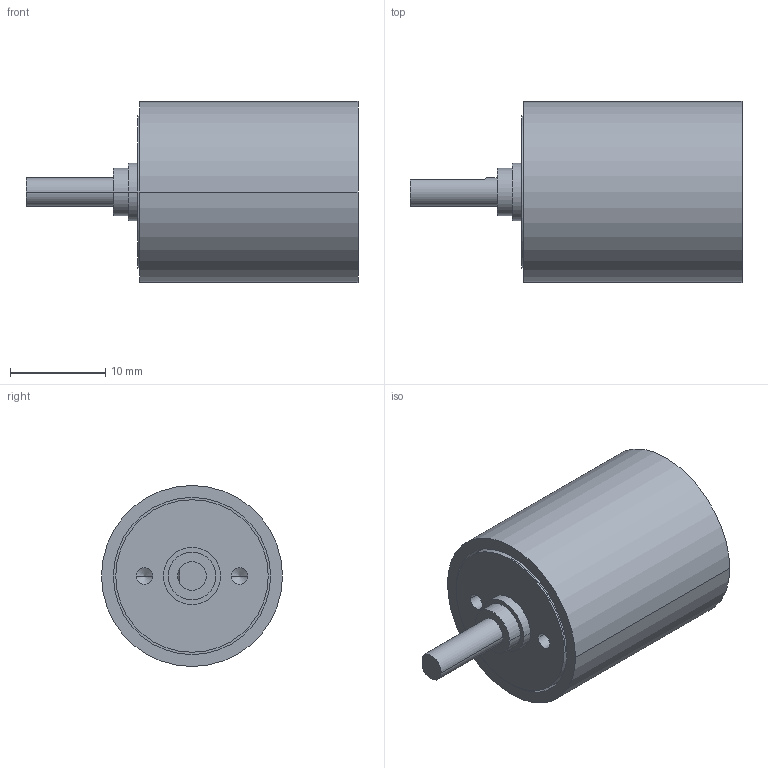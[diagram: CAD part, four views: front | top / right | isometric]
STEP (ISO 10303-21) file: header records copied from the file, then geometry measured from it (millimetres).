
FILE_DESCRIPTION((''),'2;1');
FILE_NAME('1682081','2016-10-04T',('mmagvisi'),(''),'CREO PARAMETRIC BY PTC INC, 2016050','CREO PARAMETRIC BY PTC INC, 2016050','');
FILE_SCHEMA(('CONFIG_CONTROL_DESIGN'));
Length unit declared in the file: millimetre
Products named in the file (1): 1682081
Bounding box: 34.85 x 19 x 19 mm (x, y, z)
Volume: 5993.8 mm3; surface area: 2453.9 mm2
Topology: 1 solids, 1 shells, 35 faces, 78 edges, 50 vertices
Faces by surface type: cylinder 20, plane 11, cone 4
Entity records: 1071 total; most frequent: DIRECTION 184, CARTESIAN_POINT 164, ORIENTED_EDGE 148, AXIS2_PLACEMENT_3D 77, EDGE_CURVE 74, COLOUR_RGB 58, VERTEX_POINT 50, EDGE_LOOP 44
